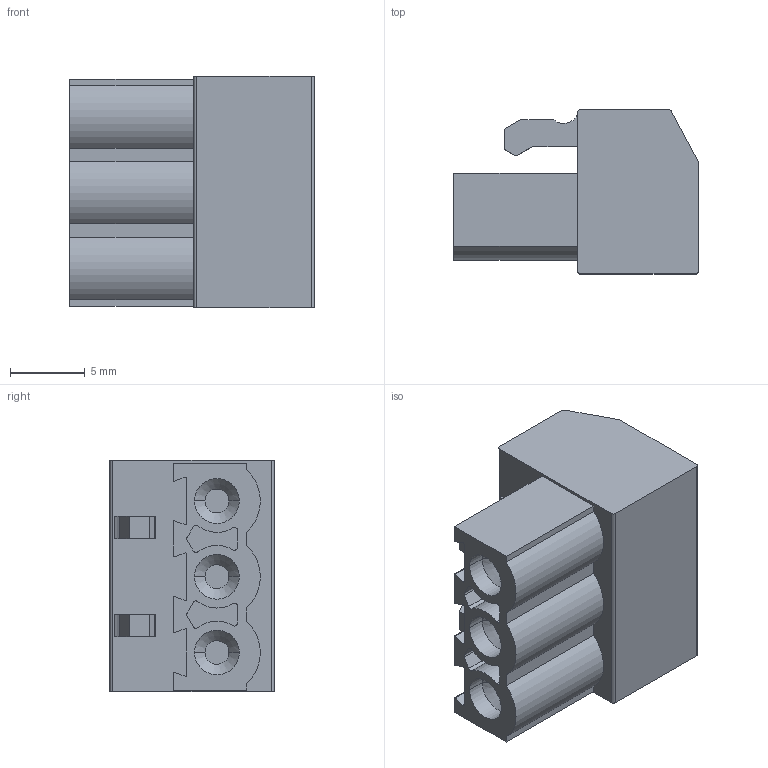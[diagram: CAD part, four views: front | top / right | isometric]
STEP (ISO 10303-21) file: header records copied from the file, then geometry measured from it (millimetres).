
FILE_DESCRIPTION((''),'2;1');
FILE_NAME('3PIN_ASM','2019-05-27T',('zhenbing.lai'),(''),'CREO PARAMETRIC BY PTC INC, 2016260','CREO PARAMETRIC BY PTC INC, 2016260','');
FILE_SCHEMA(('CONFIG_CONTROL_DESIGN'));
Length unit declared in the file: millimetre
Products named in the file (1): 3PIN_ASM
Bounding box: 16.4 x 11 x 15.54 mm (x, y, z)
Volume: 1720.6 mm3; surface area: 1775 mm2
Topology: 1 solids, 1 shells, 335 faces, 1054 edges, 718 vertices
Faces by surface type: plane 155, cylinder 126, cone 24, torus 18, bspline 12
Entity records: 13715 total; most frequent: CARTESIAN_POINT 4236, ORIENTED_EDGE 2108, DIRECTION 1893, EDGE_CURVE 1054, VERTEX_POINT 718, AXIS2_PLACEMENT_3D 681, VECTOR 531, LINE 531
